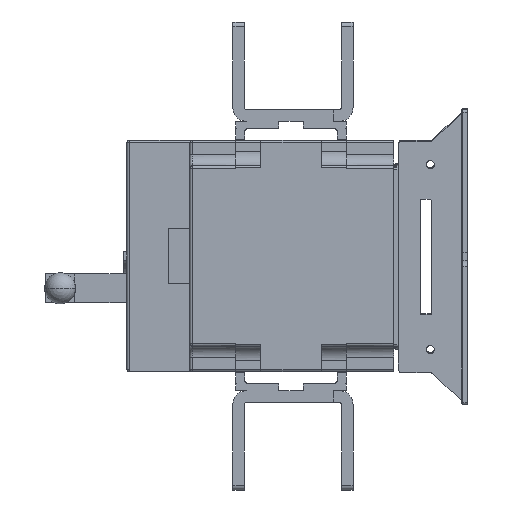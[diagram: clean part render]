
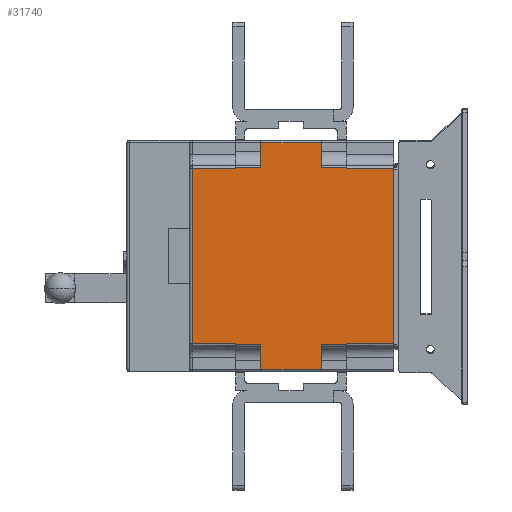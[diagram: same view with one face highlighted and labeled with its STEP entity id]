
A CAD part, left-side view. The second image highlights one B-rep face of the part: STEP entity #31740.
In plain terms, the highlighted planar face has unit normal (-1, 0, 0).
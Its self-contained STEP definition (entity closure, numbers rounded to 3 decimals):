
#5077=DIRECTION('',(0.,0.,1.));
#5078=VECTOR('',#5077,21.7);
#5079=CARTESIAN_POINT('',(0.,62.7,-216.5));
#5080=LINE('',#5079,#5078);
#5171=CARTESIAN_POINT('',(0.003,40.7,-194.785));
#5172=CARTESIAN_POINT('',(0.003,40.7,-194.751));
#5173=CARTESIAN_POINT('',(-0.001,40.7,-194.705));
#5174=CARTESIAN_POINT('',(0.,40.7,-194.597));
#5175=CARTESIAN_POINT('',(0.,40.7,-194.533));
#5176=CARTESIAN_POINT('',(0.,40.7,-194.5));
#5217=DIRECTION('',(0.,0.,1.));
#5218=VECTOR('',#5217,152.);
#5219=CARTESIAN_POINT('',(0.,0.,-194.5));
#5220=LINE('',#5219,#5218);
#5221=DIRECTION('',(0.,-1.,0.));
#5222=VECTOR('',#5221,40.7);
#5223=CARTESIAN_POINT('',(0.,40.7,-194.5));
#5224=LINE('',#5223,#5222);
#5225=DIRECTION('',(0.,-1.,0.001));
#5226=VECTOR('',#5225,22.);
#5227=CARTESIAN_POINT('',(0.,62.7,-194.8));
#5228=LINE('',#5227,#5226);
#5229=DIRECTION('',(0.,1.,0.001));
#5230=VECTOR('',#5229,22.);
#5231=CARTESIAN_POINT('',(0.,114.7,-194.8));
#5232=LINE('',#5231,#5230);
#5233=DIRECTION('',(0.,1.,0.));
#5234=VECTOR('',#5233,37.5);
#5235=CARTESIAN_POINT('',(0.,136.7,-194.5));
#5236=LINE('',#5235,#5234);
#5237=DIRECTION('',(0.,0.,1.));
#5238=VECTOR('',#5237,152.);
#5239=CARTESIAN_POINT('',(0.,174.2,-194.5));
#5240=LINE('',#5239,#5238);
#5241=DIRECTION('',(0.,1.,0.));
#5242=VECTOR('',#5241,37.5);
#5243=CARTESIAN_POINT('',(0.,136.7,-42.5));
#5244=LINE('',#5243,#5242);
#5245=DIRECTION('',(0.,1.,-0.001));
#5246=VECTOR('',#5245,22.);
#5247=CARTESIAN_POINT('',(0.,114.7,-42.2));
#5248=LINE('',#5247,#5246);
#5249=DIRECTION('',(0.,-1.,-0.001));
#5250=VECTOR('',#5249,22.);
#5251=CARTESIAN_POINT('',(0.,62.7,-42.2));
#5252=LINE('',#5251,#5250);
#5253=DIRECTION('',(0.,-1.,0.));
#5254=VECTOR('',#5253,40.7);
#5255=CARTESIAN_POINT('',(0.,40.7,-42.5));
#5256=LINE('',#5255,#5254);
#5257=DIRECTION('',(0.,-1.,0.));
#5258=VECTOR('',#5257,52.);
#5259=CARTESIAN_POINT('',(0.,114.7,-216.5));
#5260=LINE('',#5259,#5258);
#5269=DIRECTION('',(0.,0.,-1.));
#5270=VECTOR('',#5269,21.7);
#5271=CARTESIAN_POINT('',(0.,114.7,-194.8));
#5272=LINE('',#5271,#5270);
#5566=DIRECTION('',(0.,0.,-1.));
#5567=VECTOR('',#5566,21.7);
#5568=CARTESIAN_POINT('',(0.,114.7,-20.5));
#5569=LINE('',#5568,#5567);
#5660=CARTESIAN_POINT('',(0.003,136.7,-42.215));
#5661=CARTESIAN_POINT('',(0.003,136.7,-42.249));
#5662=CARTESIAN_POINT('',(-0.001,136.7,-42.295));
#5663=CARTESIAN_POINT('',(0.,136.7,-42.403));
#5664=CARTESIAN_POINT('',(0.,136.7,-42.467));
#5665=CARTESIAN_POINT('',(0.,136.7,-42.5));
#5687=CARTESIAN_POINT('',(0.,136.7,-194.5));
#5688=CARTESIAN_POINT('',(0.,136.7,-194.533));
#5689=CARTESIAN_POINT('',(0.,136.7,-194.597));
#5690=CARTESIAN_POINT('',(-0.001,136.7,-194.705));
#5691=CARTESIAN_POINT('',(0.003,136.7,-194.751));
#5692=CARTESIAN_POINT('',(0.003,136.7,-194.785));
#5753=DIRECTION('',(0.,1.,0.));
#5754=VECTOR('',#5753,52.);
#5755=CARTESIAN_POINT('',(0.,62.7,-20.5));
#5756=LINE('',#5755,#5754);
#5774=DIRECTION('',(0.,0.,1.));
#5775=VECTOR('',#5774,21.7);
#5776=CARTESIAN_POINT('',(0.,62.7,-42.2));
#5777=LINE('',#5776,#5775);
#5859=CARTESIAN_POINT('',(0.,40.7,-42.5));
#5860=CARTESIAN_POINT('',(0.,40.7,-42.467));
#5861=CARTESIAN_POINT('',(0.,40.7,-42.403));
#5862=CARTESIAN_POINT('',(-0.001,40.7,-42.295));
#5863=CARTESIAN_POINT('',(0.003,40.7,-42.249));
#5864=CARTESIAN_POINT('',(0.003,40.7,-42.215));
#20782=CARTESIAN_POINT('',(0.,62.7,-216.5));
#20783=VERTEX_POINT('',#20782);
#20788=CARTESIAN_POINT('',(0.,114.7,-216.5));
#20789=VERTEX_POINT('',#20788);
#20790=CARTESIAN_POINT('',(0.,62.7,-20.5));
#20791=CARTESIAN_POINT('',(0.,114.7,-20.5));
#20792=VERTEX_POINT('',#20790);
#20793=VERTEX_POINT('',#20791);
#22473=CARTESIAN_POINT('',(0.,114.7,-42.2));
#22474=CARTESIAN_POINT('',(0.003,136.7,-42.215));
#22475=VERTEX_POINT('',#22473);
#22476=VERTEX_POINT('',#22474);
#22481=CARTESIAN_POINT('',(0.,62.7,-42.2));
#22482=CARTESIAN_POINT('',(0.003,40.7,-42.215));
#22483=VERTEX_POINT('',#22481);
#22484=VERTEX_POINT('',#22482);
#22525=CARTESIAN_POINT('',(0.,114.7,-194.8));
#22526=CARTESIAN_POINT('',(0.003,136.7,-194.785));
#22527=VERTEX_POINT('',#22525);
#22528=VERTEX_POINT('',#22526);
#22537=CARTESIAN_POINT('',(0.,62.7,-194.8));
#22538=CARTESIAN_POINT('',(0.003,40.7,-194.785));
#22539=VERTEX_POINT('',#22537);
#22540=VERTEX_POINT('',#22538);
#22595=VERTEX_POINT('',#5176);
#22596=VERTEX_POINT('',#5687);
#22597=VERTEX_POINT('',#5665);
#22598=VERTEX_POINT('',#5859);
#22697=CARTESIAN_POINT('',(0.,174.2,-42.5));
#22698=VERTEX_POINT('',#22697);
#22701=CARTESIAN_POINT('',(0.,174.2,-194.5));
#22702=VERTEX_POINT('',#22701);
#23166=CARTESIAN_POINT('',(0.,0.,-194.5));
#23167=CARTESIAN_POINT('',(0.,0.,-42.5));
#23168=VERTEX_POINT('',#23166);
#23169=VERTEX_POINT('',#23167);
#31698=CARTESIAN_POINT('',(0.,136.7,-218.5));
#31699=DIRECTION('',(1.,0.,0.));
#31700=DIRECTION('',(0.,1.,0.));
#31701=AXIS2_PLACEMENT_3D('',#31698,#31699,#31700);
#31702=PLANE('',#31701);
#31703=ORIENTED_EDGE('',*,*,#31643,.F.);
#31704=ORIENTED_EDGE('',*,*,#31628,.F.);
#31705=ORIENTED_EDGE('',*,*,#31626,.F.);
#31706=ORIENTED_EDGE('',*,*,#31594,.F.);
#31707=ORIENTED_EDGE('',*,*,#31526,.F.);
#31709=ORIENTED_EDGE('',*,*,#31708,.F.);
#31711=ORIENTED_EDGE('',*,*,#31710,.F.);
#31713=ORIENTED_EDGE('',*,*,#31712,.T.);
#31715=ORIENTED_EDGE('',*,*,#31714,.F.);
#31717=ORIENTED_EDGE('',*,*,#31716,.T.);
#31719=ORIENTED_EDGE('',*,*,#31718,.T.);
#31721=ORIENTED_EDGE('',*,*,#31720,.F.);
#31723=ORIENTED_EDGE('',*,*,#31722,.F.);
#31725=ORIENTED_EDGE('',*,*,#31724,.F.);
#31727=ORIENTED_EDGE('',*,*,#31726,.F.);
#31729=ORIENTED_EDGE('',*,*,#31728,.F.);
#31731=ORIENTED_EDGE('',*,*,#31730,.F.);
#31733=ORIENTED_EDGE('',*,*,#31732,.T.);
#31735=ORIENTED_EDGE('',*,*,#31734,.F.);
#31737=ORIENTED_EDGE('',*,*,#31736,.T.);
#31738=EDGE_LOOP('',(#31703,#31704,#31705,#31706,#31707,#31709,#31711,#31713,
#31715,#31717,#31719,#31721,#31723,#31725,#31727,#31729,#31731,#31733,#31735,
#31737));
#31739=FACE_OUTER_BOUND('',#31738,.F.);
#5177=B_SPLINE_CURVE_WITH_KNOTS('',3,(#5171,#5172,#5173,#5174,#5175,#5176),
.UNSPECIFIED.,.F.,.F.,(4,1,1,4),(0.,0.333,0.667,1.),
.UNSPECIFIED.);
#5666=B_SPLINE_CURVE_WITH_KNOTS('',3,(#5660,#5661,#5662,#5663,#5664,#5665),
.UNSPECIFIED.,.F.,.F.,(4,1,1,4),(0.,0.333,0.667,1.),
.UNSPECIFIED.);
#5693=B_SPLINE_CURVE_WITH_KNOTS('',3,(#5687,#5688,#5689,#5690,#5691,#5692),
.UNSPECIFIED.,.F.,.F.,(4,1,1,4),(0.,0.333,0.667,1.),
.UNSPECIFIED.);
#5865=B_SPLINE_CURVE_WITH_KNOTS('',3,(#5859,#5860,#5861,#5862,#5863,#5864),
.UNSPECIFIED.,.F.,.F.,(4,1,1,4),(0.,0.333,0.667,1.),
.UNSPECIFIED.);
#31526=EDGE_CURVE('',#20783,#22539,#5080,.T.);
#31594=EDGE_CURVE('',#22539,#22540,#5228,.T.);
#31626=EDGE_CURVE('',#22540,#22595,#5177,.T.);
#31628=EDGE_CURVE('',#22595,#23168,#5224,.T.);
#31643=EDGE_CURVE('',#23168,#23169,#5220,.T.);
#31708=EDGE_CURVE('',#20789,#20783,#5260,.T.);
#31710=EDGE_CURVE('',#22527,#20789,#5272,.T.);
#31712=EDGE_CURVE('',#22527,#22528,#5232,.T.);
#31714=EDGE_CURVE('',#22596,#22528,#5693,.T.);
#31716=EDGE_CURVE('',#22596,#22702,#5236,.T.);
#31718=EDGE_CURVE('',#22702,#22698,#5240,.T.);
#31720=EDGE_CURVE('',#22597,#22698,#5244,.T.);
#31722=EDGE_CURVE('',#22476,#22597,#5666,.T.);
#31724=EDGE_CURVE('',#22475,#22476,#5248,.T.);
#31726=EDGE_CURVE('',#20793,#22475,#5569,.T.);
#31728=EDGE_CURVE('',#20792,#20793,#5756,.T.);
#31730=EDGE_CURVE('',#22483,#20792,#5777,.T.);
#31732=EDGE_CURVE('',#22483,#22484,#5252,.T.);
#31734=EDGE_CURVE('',#22598,#22484,#5865,.T.);
#31736=EDGE_CURVE('',#22598,#23169,#5256,.T.);
#31740=ADVANCED_FACE('',(#31739),#31702,.F.);
